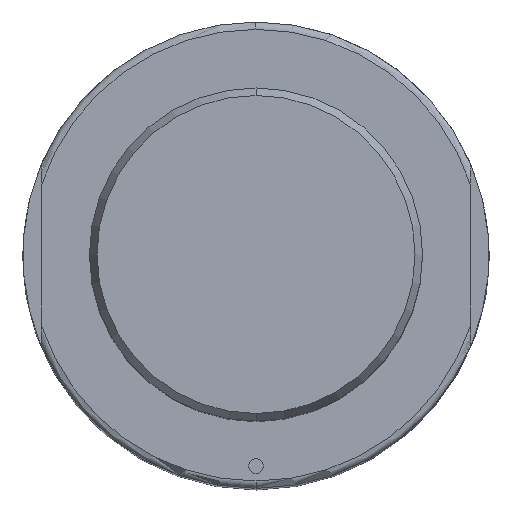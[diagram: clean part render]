
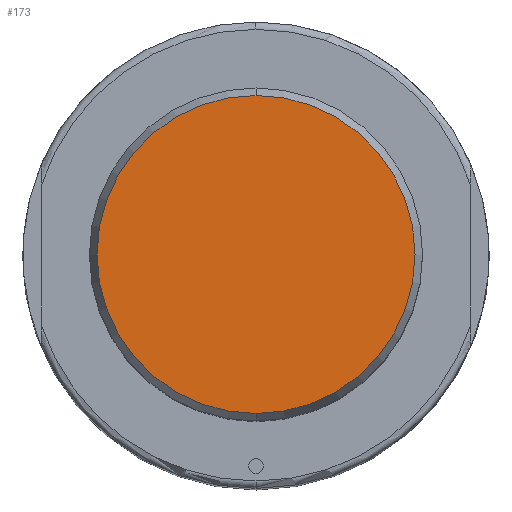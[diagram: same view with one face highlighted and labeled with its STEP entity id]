
A CAD part, top view. The second image highlights one B-rep face of the part: STEP entity #173.
In plain terms, the highlighted planar face has unit normal (0, 0, 1).
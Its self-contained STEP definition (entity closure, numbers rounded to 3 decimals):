
#124=PLANE('',#990);
#173=ADVANCED_FACE('',(#244),#124,.T.);
#244=FACE_OUTER_BOUND('',#297,.T.);
#297=EDGE_LOOP('',(#457,#458));
#364=CIRCLE('',#975,21.481);
#365=CIRCLE('',#977,21.481);
#457=ORIENTED_EDGE('',*,*,#758,.F.);
#458=ORIENTED_EDGE('',*,*,#759,.F.);
#677=VERTEX_POINT('',#1413);
#680=VERTEX_POINT('',#1418);
#758=EDGE_CURVE('',#680,#677,#364,.T.);
#759=EDGE_CURVE('',#677,#680,#365,.T.);
#975=AXIS2_PLACEMENT_3D('',#1419,#1109,#1110);
#977=AXIS2_PLACEMENT_3D('',#1421,#1113,#1114);
#990=AXIS2_PLACEMENT_3D('',#1444,#1143,#1144);
#1109=DIRECTION('',(0.,0.,-1.));
#1110=DIRECTION('',(-1.,0.,0.));
#1113=DIRECTION('',(0.,0.,-1.));
#1114=DIRECTION('',(1.,0.,0.));
#1143=DIRECTION('',(0.,0.,1.));
#1144=DIRECTION('',(0.,-1.,0.));
#1413=CARTESIAN_POINT('',(0.,-21.481,180.));
#1418=CARTESIAN_POINT('',(0.,21.481,180.));
#1419=CARTESIAN_POINT('',(0.,0.,180.));
#1421=CARTESIAN_POINT('',(0.,0.,180.));
#1444=CARTESIAN_POINT('',(0.,0.,180.));
